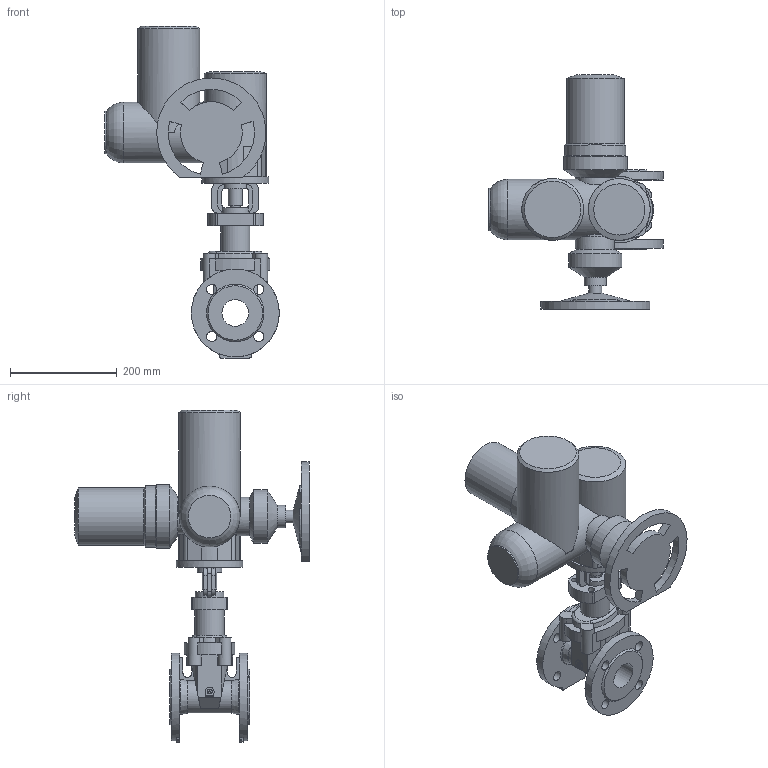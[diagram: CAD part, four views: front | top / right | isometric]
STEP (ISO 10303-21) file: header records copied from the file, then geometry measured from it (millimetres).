
FILE_DESCRIPTION(('STEP AP203'), '1');
FILE_NAME('青溻桄赅 47GV.M DN50 + MT903.A07', '', ('UNSPECIFIED'), ('UNSPECIFIED'), 'ASCON STEP Converter 1.6', 'ASCON Math Kernel', '');
FILE_SCHEMA(('CONFIG_CONTROL_DESIGN'));
Length unit declared in the file: millimetre
Bounding box: 327.5 x 440 x 623 mm (x, y, z)
Volume: 10236869.9 mm3; surface area: 654101.9 mm2
Topology: 1 solids, 1 shells, 333 faces, 905 edges, 595 vertices
Faces by surface type: plane 171, cylinder 135, cone 18, torus 9
Full cylindrical faces by diameter (mm): 8.5 x4, 12 x8, 18 x2, 19 x8, 24 x1, 27 x1, 29 x2, 42 x1, 50 x1, 52 x1, 55 x1, 66 x1, 70 x1, 72 x1, 80 x1, 100 x1, 108 x1, 114 x1, 115 x1, 116 x2, 119 x1, 125 x1, 165 x2
Entity records: 15454 total; most frequent: CARTESIAN_POINT 4377, DIRECTION 1766, ORIENTED_EDGE 1694, EDGE_CURVE 847, AXIS2_PLACEMENT_3D 678, VERTEX_POINT 595, EDGE_LOOP 446, LINE 410
